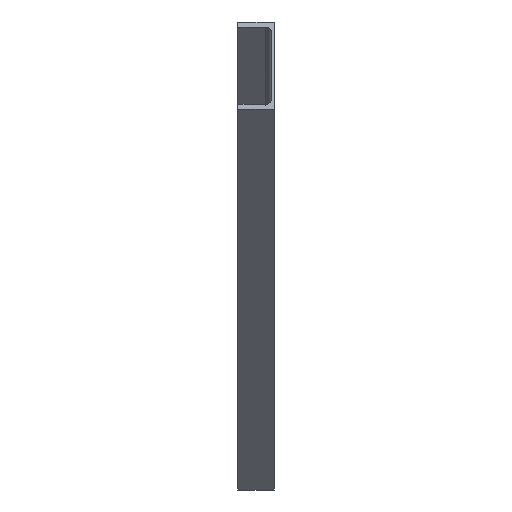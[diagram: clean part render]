
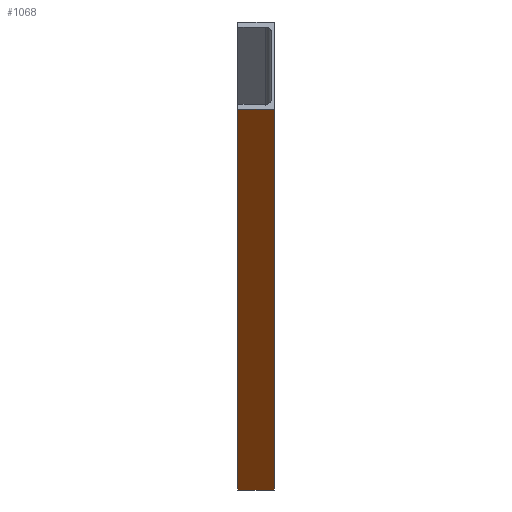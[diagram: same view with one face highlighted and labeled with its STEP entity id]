
A CAD part, left-side view. The second image highlights one B-rep face of the part: STEP entity #1068.
In plain terms, the highlighted planar face has unit normal (-0.707, 0, -0.707).
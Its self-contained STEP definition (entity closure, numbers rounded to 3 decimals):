
#40 = CARTESIAN_POINT ( 'NONE',  ( 6072.721, 3620., 5042.721 ) ) ;
#154 = AXIS2_PLACEMENT_3D ( 'NONE', #3950, #2292, #689 ) ;
#159 = VECTOR ( 'NONE', #1155, 1000. ) ;
#260 = LINE ( 'NONE', #942, #840 ) ;
#338 = CARTESIAN_POINT ( 'NONE',  ( 6910., 3545., 4205.442 ) ) ;
#354 = FACE_OUTER_BOUND ( 'NONE', #2982, .T. ) ;
#359 = LINE ( 'NONE', #2984, #916 ) ;
#623 = DIRECTION ( 'NONE',  ( 0.707, 0., -0.707 ) ) ;
#646 = LINE ( 'NONE', #40, #2133 ) ;
#689 = DIRECTION ( 'NONE',  ( 0.707, 0., -0.707 ) ) ;
#735 = ORIENTED_EDGE ( 'NONE', *, *, #3009, .F. ) ;
#749 = ORIENTED_EDGE ( 'NONE', *, *, #3168, .T. ) ;
#840 = VECTOR ( 'NONE', #3813, 1000. ) ;
#856 = CARTESIAN_POINT ( 'NONE',  ( 6125.442, 3545., 4990. ) ) ;
#916 = VECTOR ( 'NONE', #2589, 1000. ) ;
#942 = CARTESIAN_POINT ( 'NONE',  ( 6072.721, 3545., 5042.721 ) ) ;
#1068 = ADVANCED_FACE ( 'NONE', ( #354 ), #3908, .F. ) ;
#1155 = DIRECTION ( 'NONE',  ( 0., -1., 0. ) ) ;
#1418 = CARTESIAN_POINT ( 'NONE',  ( 6910., 3620., 4205.442 ) ) ;
#1622 = EDGE_CURVE ( 'NONE', #1883, #1731, #2767, .T. ) ;
#1731 = VERTEX_POINT ( 'NONE', #3530 ) ;
#1799 = CARTESIAN_POINT ( 'NONE',  ( 6125.442, 3620., 4990. ) ) ;
#1883 = VERTEX_POINT ( 'NONE', #1799 ) ;
#1926 = ORIENTED_EDGE ( 'NONE', *, *, #1622, .F. ) ;
#2133 = VECTOR ( 'NONE', #623, 1000. ) ;
#2292 = DIRECTION ( 'NONE',  ( 0.707, 0., 0.707 ) ) ;
#2542 = VERTEX_POINT ( 'NONE', #338 ) ;
#2589 = DIRECTION ( 'NONE',  ( 0., 1., 0. ) ) ;
#2767 = LINE ( 'NONE', #856, #159 ) ;
#2928 = VERTEX_POINT ( 'NONE', #1418 ) ;
#2982 = EDGE_LOOP ( 'NONE', ( #3155, #735, #1926, #749 ) ) ;
#2984 = CARTESIAN_POINT ( 'NONE',  ( 6910., 3545., 4205.442 ) ) ;
#3009 = EDGE_CURVE ( 'NONE', #1731, #2542, #260, .T. ) ;
#3155 = ORIENTED_EDGE ( 'NONE', *, *, #3610, .F. ) ;
#3168 = EDGE_CURVE ( 'NONE', #1883, #2928, #646, .T. ) ;
#3530 = CARTESIAN_POINT ( 'NONE',  ( 6125.442, 3545., 4990. ) ) ;
#3610 = EDGE_CURVE ( 'NONE', #2542, #2928, #359, .T. ) ;
#3813 = DIRECTION ( 'NONE',  ( 0.707, 0., -0.707 ) ) ;
#3908 = PLANE ( 'NONE',  #154 ) ;
#3950 = CARTESIAN_POINT ( 'NONE',  ( 6072.721, 3545., 5042.721 ) ) ;
